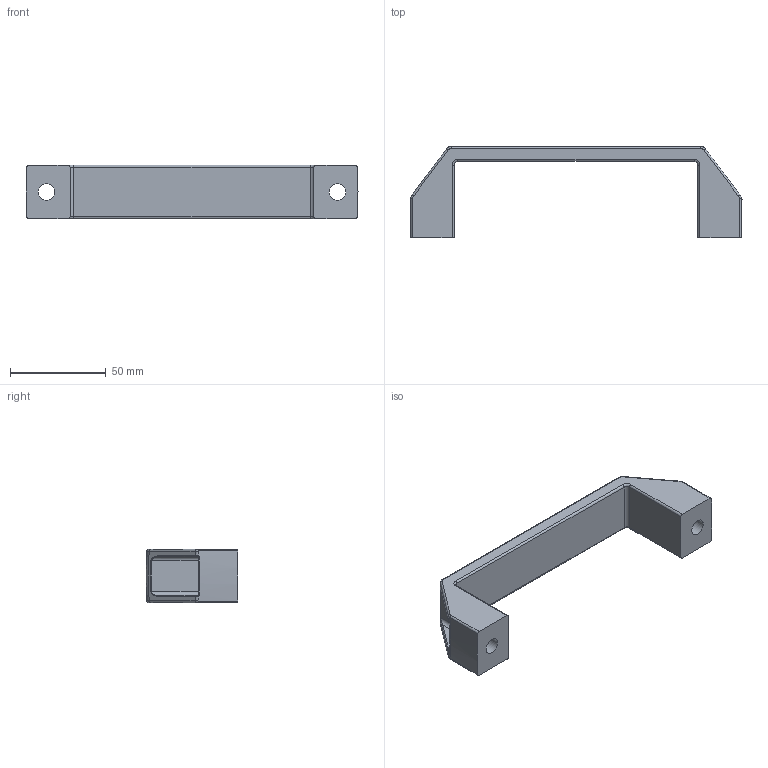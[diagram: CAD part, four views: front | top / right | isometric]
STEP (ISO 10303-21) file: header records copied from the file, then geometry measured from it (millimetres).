
FILE_DESCRIPTION(/* description */ (''),/* implementation_level */ '2;1');
FILE_NAME(/* name */ '\\NAS\db20\A-AP152\DR_A-AP152.stp',/* time_stamp */ '2017-07-06T11:38:51+09:00',/* author */ ('user'),/* organization */ (''),/* preprocessor_version */ 'ST-DEVELOPER v15.6',/* originating_system */ 'Autodesk Inventor 2015',/* authorisation */ '');
FILE_SCHEMA (('AUTOMOTIVE_DESIGN { 1 0 10303 214 3 1 1 }'));
Length unit declared in the file: millimetre
Products named in the file (1): DR_A-AP152
Bounding box: 173.5 x 48 x 28 mm (x, y, z)
Volume: 60710 mm3; surface area: 21136.8 mm2
Topology: 1 solids, 1 shells, 110 faces, 258 edges, 148 vertices
Faces by surface type: cylinder 41, bspline 38, plane 19, torus 12
Full cylindrical faces by diameter (mm): 8.5 x2, 13.5 x2
Entity records: 3866 total; most frequent: CARTESIAN_POINT 1497, ORIENTED_EDGE 500, DIRECTION 464, EDGE_CURVE 250, AXIS2_PLACEMENT_3D 195, VERTEX_POINT 148, EDGE_LOOP 120, FACE_OUTER_BOUND 110
